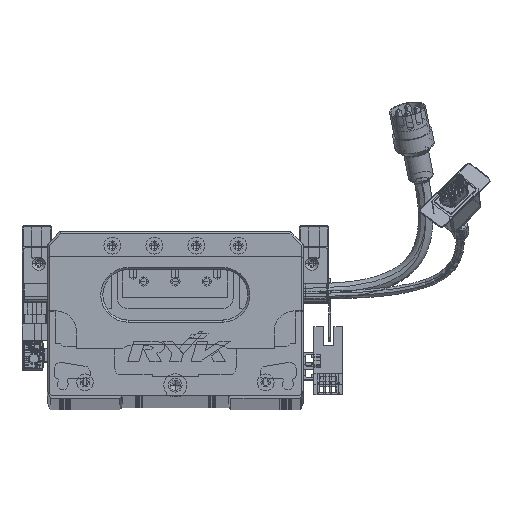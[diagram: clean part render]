
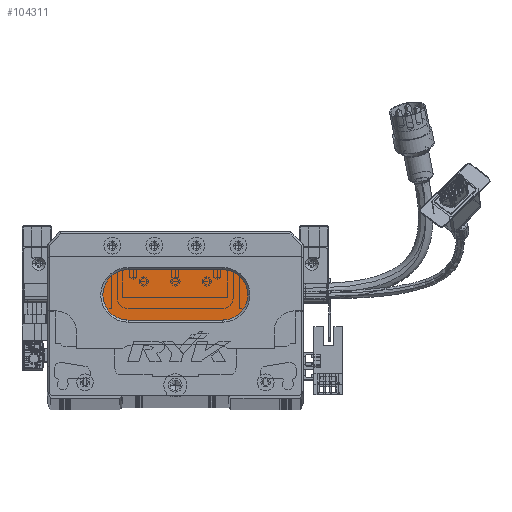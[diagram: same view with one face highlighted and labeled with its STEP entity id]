
A CAD part, top view. The second image highlights one B-rep face of the part: STEP entity #104311.
In plain terms, the highlighted planar face has unit normal (0, 0, 1) as drawn and (0, 0, -1) by its records, which use the part's own axes.
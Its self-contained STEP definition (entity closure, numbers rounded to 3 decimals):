
#589 = VECTOR ( 'NONE', #94219, 1000. ) ;
#9052 = FACE_OUTER_BOUND ( 'NONE', #17889, .T. ) ;
#10312 = DIRECTION ( 'NONE',  ( 0., 0., -1. ) ) ;
#14600 = ORIENTED_EDGE ( 'NONE', *, *, #26637, .T. ) ;
#17889 = EDGE_LOOP ( 'NONE', ( #43210, #24132, #33629, #48422, #14600 ) ) ;
#20778 = DIRECTION ( 'NONE',  ( -1., 0., 0. ) ) ;
#23249 = VERTEX_POINT ( 'NONE', #121088 ) ;
#24132 = ORIENTED_EDGE ( 'NONE', *, *, #91754, .T. ) ;
#25325 = CARTESIAN_POINT ( 'NONE',  ( 26.5, 48., 13. ) ) ;
#26637 = EDGE_CURVE ( 'NONE', #107431, #23249, #74942, .T. ) ;
#27043 = CIRCLE ( 'NONE', #121394, 12. ) ;
#27460 = DIRECTION ( 'NONE',  ( 0., 0., -1. ) ) ;
#29386 = CARTESIAN_POINT ( 'NONE',  ( 83.5, 36., 13. ) ) ;
#31014 = CARTESIAN_POINT ( 'NONE',  ( 38.5, 48., 13. ) ) ;
#31750 = DIRECTION ( 'NONE',  ( -1., 0., 0. ) ) ;
#33495 = AXIS2_PLACEMENT_3D ( 'NONE', #119963, #10312, #31750 ) ;
#33629 = ORIENTED_EDGE ( 'NONE', *, *, #50657, .T. ) ;
#36441 = LINE ( 'NONE', #29386, #589 ) ;
#38953 = DIRECTION ( 'NONE',  ( -1., 0., 0. ) ) ;
#43210 = ORIENTED_EDGE ( 'NONE', *, *, #74684, .T. ) ;
#48422 = ORIENTED_EDGE ( 'NONE', *, *, #86821, .T. ) ;
#49508 = CARTESIAN_POINT ( 'NONE',  ( 83.5, 48., 13. ) ) ;
#50657 = EDGE_CURVE ( 'NONE', #54339, #110360, #136172, .T. ) ;
#54339 = VERTEX_POINT ( 'NONE', #116265 ) ;
#60260 = AXIS2_PLACEMENT_3D ( 'NONE', #49508, #27460, #38953 ) ;
#73875 = VERTEX_POINT ( 'NONE', #98482 ) ;
#74372 = DIRECTION ( 'NONE',  ( -1., 0., 0. ) ) ;
#74684 = EDGE_CURVE ( 'NONE', #23249, #73875, #87847, .T. ) ;
#74942 = LINE ( 'NONE', #139456, #105606 ) ;
#84785 = CARTESIAN_POINT ( 'NONE',  ( 38.5, 60., 13. ) ) ;
#86821 = EDGE_CURVE ( 'NONE', #110360, #107431, #27043, .T. ) ;
#87544 = CARTESIAN_POINT ( 'NONE',  ( 83.5, 48., 13. ) ) ;
#87847 = CIRCLE ( 'NONE', #60260, 12. ) ;
#91691 = AXIS2_PLACEMENT_3D ( 'NONE', #87544, #96604, #20778 ) ;
#91754 = EDGE_CURVE ( 'NONE', #73875, #54339, #36441, .T. ) ;
#94219 = DIRECTION ( 'NONE',  ( -1., 0., 0. ) ) ;
#96604 = DIRECTION ( 'NONE',  ( 0., 0., -1. ) ) ;
#97229 = DIRECTION ( 'NONE',  ( 0., 0., -1. ) ) ;
#98482 = CARTESIAN_POINT ( 'NONE',  ( 83.5, 36., 13. ) ) ;
#98502 = PLANE ( 'NONE',  #91691 ) ;
#104311 = ADVANCED_FACE ( 'NONE', ( #9052 ), #98502, .T. ) ;
#105606 = VECTOR ( 'NONE', #140388, 1000. ) ;
#107431 = VERTEX_POINT ( 'NONE', #84785 ) ;
#110360 = VERTEX_POINT ( 'NONE', #25325 ) ;
#116265 = CARTESIAN_POINT ( 'NONE',  ( 38.5, 36., 13. ) ) ;
#119963 = CARTESIAN_POINT ( 'NONE',  ( 38.5, 48., 13. ) ) ;
#121088 = CARTESIAN_POINT ( 'NONE',  ( 83.5, 60., 13. ) ) ;
#121394 = AXIS2_PLACEMENT_3D ( 'NONE', #31014, #97229, #74372 ) ;
#136172 = CIRCLE ( 'NONE', #33495, 12. ) ;
#139456 = CARTESIAN_POINT ( 'NONE',  ( 83.5, 60., 13. ) ) ;
#140388 = DIRECTION ( 'NONE',  ( 1., 0., 0. ) ) ;
